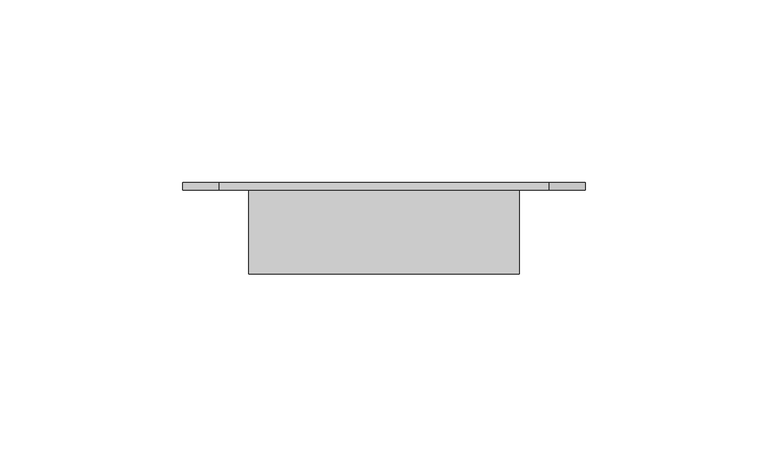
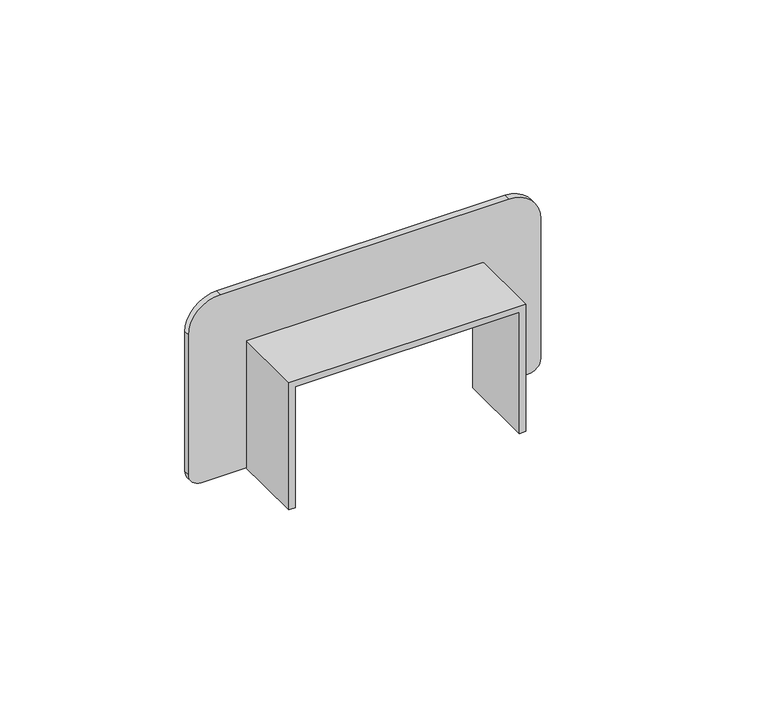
"""IFC4 building model written with IfcOpenShell, lengths in millimetres: duct fitting geometry, КНС_ПрямойВводВСтену_DKC : Прямой ввод в стену_DKC."""

import ifcopenshell
import ifcopenshell.guid

model = None  # the IFC model being written
_history = None  # IfcOwnerHistory: only IFC2X3 demands one
_inside = {}  # id of a spatial element -> (the spatial element, [elements in it])
_under = {}  # id of a project, library or spatial element -> (it, [spatial elements below it])
_declared = {}  # id of a project -> (the project, [libraries it declares])
_typed = {}  # id of a type object -> (the type object, [elements of that type])
_made_of = {}  # id of a material, layer set ... -> (it, [elements and type objects made of it])


def new_model(schema):
    """Start an empty IFC model of exactly this schema.

    Asked for "IFC4X3", IfcOpenShell would pick the latest addendum, in which some entities
    have other attributes; the version numbers below select the first issue.
    IFC2X3 requires an IfcOwnerHistory on every rooted entity: one is made here for all.
    """
    global model, _history
    if schema == "IFC4X3":
        model = ifcopenshell.file(schema_version=(4, 3, 0, 0))
    else:
        model = ifcopenshell.file(schema=schema)
    _inside.clear()
    _under.clear()
    _declared.clear()
    _typed.clear()
    _made_of.clear()
    _history = None
    if model.schema == "IFC2X3":
        org = make("IfcOrganization", Name="unknown")
        user = make(
            "IfcPersonAndOrganization",
            ThePerson=make("IfcPerson", FamilyName="unknown"),
            TheOrganization=org,
        )
        app = make(
            "IfcApplication",
            ApplicationDeveloper=org,
            Version="unknown",
            ApplicationFullName="unknown",
            ApplicationIdentifier="unknown",
        )
        _history = make(
            "IfcOwnerHistory",
            OwningUser=user,
            OwningApplication=app,
            ChangeAction="ADDED",
            CreationDate=0,
        )
    return model


def make(cls, **values):
    """One entity of the class cls with the attributes given. An attribute that is None is left unset."""
    return model.create_entity(
        cls, **{name: value for name, value in values.items() if value is not None}
    )


def rooted(cls, **values):
    """An entity with a GlobalId (a new one), such as an element, a storey or a relation."""
    return make(cls, GlobalId=ifcopenshell.guid.new(), OwnerHistory=_history, **values)


def si_unit(unit_type, name, prefix=None):
    """IfcSIUnit, for example si_unit("LENGTHUNIT", "METRE", prefix="MILLI")."""
    return make("IfcSIUnit", UnitType=unit_type, Prefix=prefix, Name=name)


def assignment(units):
    """IfcUnitAssignment: the units of a project."""
    return None if units is None else make("IfcUnitAssignment", Units=units)


def point(xyz):
    """IfcCartesianPoint."""
    return None if xyz is None else make("IfcCartesianPoint", Coordinates=xyz)


def direction(xyz):
    """IfcDirection."""
    return None if xyz is None else make("IfcDirection", DirectionRatios=xyz)


def frame(location, z_axis=None, x_axis=None):
    """IfcAxis2Placement3D, a coordinate frame: its origin and axes. An axis left out is left unset."""
    return make(
        "IfcAxis2Placement3D",
        Location=point(location),
        Axis=direction(z_axis),
        RefDirection=direction(x_axis),
    )


def frame_2d(location, x_axis=None):
    """IfcAxis2Placement2D, a coordinate frame in the plane: its origin and x axis."""
    return make(
        "IfcAxis2Placement2D", Location=point(location), RefDirection=direction(x_axis)
    )


def origin():
    """The frame at (0, 0, 0) with its axes left unset."""
    return frame((0.0, 0.0, 0.0))


def place(relative_to, where):
    """IfcLocalPlacement: puts the frame where relative to a parent placement (None: the world)."""
    return make(
        "IfcLocalPlacement", PlacementRelTo=relative_to, RelativePlacement=where
    )


def context(
    kind, dimensions, precision=None, world=None, true_north=None, identifier=None
):
    """IfcGeometricRepresentationContext, for example the 3D "Model" context."""
    return make(
        "IfcGeometricRepresentationContext",
        ContextIdentifier=identifier,
        ContextType=kind,
        CoordinateSpaceDimension=dimensions,
        Precision=precision,
        WorldCoordinateSystem=world,
        TrueNorth=true_north,
    )


def project(units=None, contexts=None):
    """IfcProject with its units and contexts."""
    return rooted(
        "IfcProject",
        Name="project",
        RepresentationContexts=contexts,
        UnitsInContext=assignment(units),
    )


def spatial(cls, under=None, at=None, **own):
    """A site, building, storey or space (cls), placed at a placement, below another one or the project."""
    s = rooted(cls, ObjectPlacement=at, **own)
    if under is not None:
        _under.setdefault(under.id(), (under, []))[1].append(s)
    return s


def polyline(points):
    """IfcPolyline through the points."""
    return make("IfcPolyline", Points=[point(p) for p in points])


def circle_curve(where, radius):
    """IfcCircle in the frame where."""
    return make("IfcCircle", Position=where, Radius=radius)


def trimmed(basis, trim1, trim2, sense, master):
    """IfcTrimmedCurve: the piece of a basis curve between two trims."""
    return make(
        "IfcTrimmedCurve",
        BasisCurve=basis,
        Trim1=trim1,
        Trim2=trim2,
        SenseAgreement=sense,
        MasterRepresentation=master,
    )


def segment(curve, same_sense, transition):
    """IfcCompositeCurveSegment."""
    return make(
        "IfcCompositeCurveSegment",
        Transition=transition,
        SameSense=same_sense,
        ParentCurve=curve,
    )


def composite_curve(segments, self_intersect=None):
    """IfcCompositeCurve: segments joined end to end."""
    return make("IfcCompositeCurve", Segments=segments, SelfIntersect=self_intersect)


def outline(outer, holes=None, kind="AREA"):
    """IfcArbitraryClosedProfileDef: a profile drawn as a closed curve; with holes, ...WithVoids."""
    if holes is None:
        return make("IfcArbitraryClosedProfileDef", ProfileType=kind, OuterCurve=outer)
    return make(
        "IfcArbitraryProfileDefWithVoids",
        ProfileType=kind,
        OuterCurve=outer,
        InnerCurves=holes,
    )


def extrude(swept, where, along, depth):
    """IfcExtrudedAreaSolid: the profile swept, set in the frame where, extruded along a direction by depth."""
    return make(
        "IfcExtrudedAreaSolid",
        SweptArea=swept,
        Position=where,
        ExtrudedDirection=direction(along),
        Depth=depth,
    )


def shape(context_of_items, identifier, shape_type, items):
    """IfcShapeRepresentation: the items that make up one representation, for example the "Body"."""
    return make(
        "IfcShapeRepresentation",
        ContextOfItems=context_of_items,
        RepresentationIdentifier=identifier,
        RepresentationType=shape_type,
        Items=items,
    )


def source(mapping_origin, context_of_items, identifier, shape_type, items):
    """IfcRepresentationMap: a shape defined once, which mapped items show again and again."""
    return make(
        "IfcRepresentationMap",
        MappingOrigin=mapping_origin,
        MappedRepresentation=shape(context_of_items, identifier, shape_type, items),
    )


def transform(
    local_origin,
    x_axis=None,
    y_axis=None,
    z_axis=None,
    scale=None,
    scale2=None,
    scale3=None,
    uniform=True,
):
    """IfcCartesianTransformationOperator3D, or its non-uniform kind. x_axis, y_axis, z_axis: its Axis1, 2, 3."""
    if uniform:
        return make(
            "IfcCartesianTransformationOperator3D",
            Axis1=direction(x_axis),
            Axis2=direction(y_axis),
            LocalOrigin=point(local_origin),
            Scale=scale,
            Axis3=direction(z_axis),
        )
    return make(
        "IfcCartesianTransformationOperator3DnonUniform",
        Axis1=direction(x_axis),
        Axis2=direction(y_axis),
        LocalOrigin=point(local_origin),
        Scale=scale,
        Axis3=direction(z_axis),
        Scale2=scale2,
        Scale3=scale3,
    )


def mapped(mapping_source, mapping_target):
    """IfcMappedItem: shows the shape of a source again, moved by a transform."""
    return make(
        "IfcMappedItem", MappingSource=mapping_source, MappingTarget=mapping_target
    )


def made_of(thing, what):
    """Note that an element or type object is made of a material, layer set ...; save() writes the relation."""
    if what is not None:
        _made_of.setdefault(what.id(), (what, []))[1].append(thing)
    return thing


def element(
    cls,
    number,
    at=None,
    inside=None,
    cuts=None,
    type_object=None,
    material=None,
    context=None,
    identifier="Body",
    shape_type=None,
    held_by="IfcProductDefinitionShape",
    body=None,
    shapes=None,
    **own,
):
    """One element of the class cls, such as IfcWall. Its Tag is "e" and its number.

    at: its placement. inside: the storey or other place that contains it. cuts: it is an
    opening in that element (IfcRelVoidsElement). A single representation is given by context,
    identifier, shape_type and body (its items); several are given by shapes. held_by: the class
    of the entity that holds the representations. save() writes the other relations.
    """
    e = rooted(cls, Tag="e%d" % number, ObjectPlacement=at, **own)
    if body is not None:
        shapes = [shape(context, identifier, shape_type, body)]
    if shapes is not None:
        e.Representation = make(held_by, Representations=shapes)
    if inside is not None:
        _inside.setdefault(inside.id(), (inside, []))[1].append(e)
    if cuts is not None:
        rooted(
            "IfcRelVoidsElement", RelatingBuildingElement=cuts, RelatedOpeningElement=e
        )
    if type_object is not None:
        _typed.setdefault(type_object.id(), (type_object, []))[1].append(e)
    return made_of(e, material)


def aggregate(whole, parts):
    """IfcRelAggregates: a whole, such as a stair, and the parts it consists of."""
    return rooted("IfcRelAggregates", RelatingObject=whole, RelatedObjects=parts)


def save(model, path):
    """Write the relations noted so far, then the file.

    IfcRelAggregates (storeys below a building ...), IfcRelContainedInSpatialStructure (elements
    in a storey), IfcRelDefinesByType, IfcRelAssociatesMaterial and IfcRelDeclares: one each for
    every whole, place, type object, material and project.
    """
    for whole, parts in _under.values():
        aggregate(whole, parts)
    for where, things in _inside.values():
        rooted(
            "IfcRelContainedInSpatialStructure",
            RelatedElements=things,
            RelatingStructure=where,
        )
    for kind, things in _typed.values():
        rooted("IfcRelDefinesByType", RelatedObjects=things, RelatingType=kind)
    for what, things in _made_of.values():
        rooted("IfcRelAssociatesMaterial", RelatedObjects=things, RelatingMaterial=what)
    for by, libraries in _declared.values():
        rooted("IfcRelDeclares", RelatingContext=by, RelatedDefinitions=libraries)
    model.write(path)


def duct_fitting_dde6f971(model_context):
    return source(origin(), model_context, "Body", "SweptSolid", [
        extrude(outline(composite_curve([segment(polyline([(-20.0, -37.0), (22.0, -37.0), (22.0, 37.0), (-20.0, 37.0), (-20.0, 51.0039239)]), True, "CONTINUOUS"), segment(trimmed(circle_curve(frame_2d((-16.0039239, 51.0039239)), 3.9960761), [point((-20.0, 51.0039239))], [point((-16.0039239, 55.0))], False, "CARTESIAN"), True, "CONTINUOUS"), segment(polyline([(-16.0039239, 55.0), (30.0, 55.0)]), True, "CONTINUOUS"), segment(trimmed(circle_curve(frame_2d((30.0, 45.0)), 10.0), [point((30.0, 55.0))], [point((40.0, 45.0))], False, "CARTESIAN"), True, "CONTINUOUS"), segment(polyline([(40.0, 45.0), (40.0, -45.0)]), True, "CONTINUOUS"), segment(trimmed(circle_curve(frame_2d((30.0, -45.0)), 10.0), [point((40.0, -45.0))], [point((30.0, -55.0))], False, "CARTESIAN"), True, "CONTINUOUS"), segment(polyline([(30.0, -55.0), (-16.0204043, -55.0)]), True, "CONTINUOUS"), segment(trimmed(circle_curve(frame_2d((-16.0204043, -51.0204043)), 3.9795957), [point((-16.0204043, -55.0))], [point((-20.0, -51.0204043))], False, "CARTESIAN"), True, "CONTINUOUS"), segment(polyline([(-20.0, -51.0204043), (-20.0, -37.0)]), True, "CONTINUOUS")], self_intersect=False)), frame((0.0, 23.0, 0.0), z_axis=(0.0, 1.0, 0.0), x_axis=(0.0, 0.0, 1.0)), (0.0, 0.0, 1.0), 2.0),
        extrude(outline(polyline([(-20.0, -35.0), (20.0, -35.0), (20.0, 35.0), (-20.0, 35.0), (-20.0, 37.0), (22.0, 37.0), (22.0, -37.0), (-20.0, -37.0), (-20.0, -35.0)])), frame((0.0, 0.0, 0.0), z_axis=(0.0, 1.0, 0.0), x_axis=(0.0, 0.0, 1.0)), (0.0, 0.0, 1.0), 25.0),
    ])


if __name__ == "__main__":
    model = new_model("IFC4")
    model_context = context("Model", 3, world=origin())
    ifc_project = project(units=[si_unit("LENGTHUNIT", "METRE", prefix="MILLI")], contexts=[model_context])
    site = spatial("IfcSite", under=ifc_project)
    building = spatial("IfcBuilding", under=site)
    placement = place(None, origin())
    duct_fitting_shape = duct_fitting_dde6f971(model_context)
    element("IfcDuctFitting", 1, ObjectType="КНС_ПрямойВводВСтену_DKC : Прямой ввод в стену_DKC", at=placement, inside=building, context=model_context, shape_type="MappedRepresentation", body=[
        mapped(duct_fitting_shape, transform((0.0, 0.0, 0.0), x_axis=(1.0, 0.0, 0.0), y_axis=(0.0, 1.0, 0.0), z_axis=(0.0, 0.0, 1.0))),
    ])
    save(model, "model.ifc")
